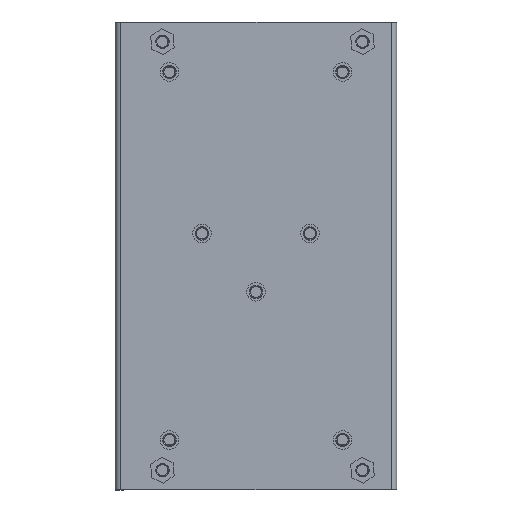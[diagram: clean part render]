
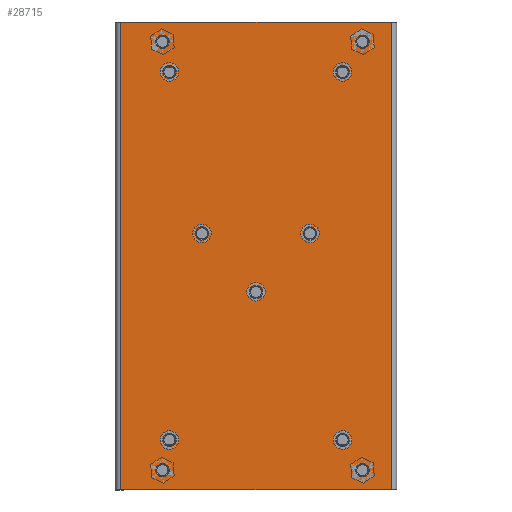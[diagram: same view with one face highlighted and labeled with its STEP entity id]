
A CAD part, front view. The second image highlights one B-rep face of the part: STEP entity #28715.
In plain terms, the highlighted planar face has unit normal (0, -1, 0).
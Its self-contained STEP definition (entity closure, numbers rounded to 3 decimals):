
#1950=FACE_BOUND($,#4904,.T.);
#1951=FACE_BOUND($,#4905,.T.);
#1952=FACE_BOUND($,#4906,.T.);
#1953=FACE_BOUND($,#4907,.T.);
#1954=FACE_BOUND($,#4908,.T.);
#1955=FACE_BOUND($,#4909,.T.);
#1956=FACE_BOUND($,#4910,.T.);
#1957=FACE_BOUND($,#4911,.T.);
#1958=FACE_BOUND($,#4912,.T.);
#1959=FACE_BOUND($,#4913,.T.);
#1960=FACE_BOUND($,#4914,.T.);
#2220=PLANE($,#30303);
#3380=FACE_OUTER_BOUND($,#4903,.T.);
#4903=EDGE_LOOP($,(#20419,#20420,#20421,#20422));
#4904=EDGE_LOOP($,(#20423));
#4905=EDGE_LOOP($,(#20424));
#4906=EDGE_LOOP($,(#20425));
#4907=EDGE_LOOP($,(#20426));
#4908=EDGE_LOOP($,(#20427));
#4909=EDGE_LOOP($,(#20428));
#4910=EDGE_LOOP($,(#20429));
#4911=EDGE_LOOP($,(#20430));
#4912=EDGE_LOOP($,(#20431));
#4913=EDGE_LOOP($,(#20432));
#4914=EDGE_LOOP($,(#20433));
#6688=LINE($,#39159,#9944);
#6696=LINE($,#39177,#9952);
#6699=LINE($,#39196,#9955);
#6700=LINE($,#39197,#9956);
#9944=VECTOR($,#32167,104.);
#9952=VECTOR($,#32179,60.1);
#9955=VECTOR($,#32198,104.);
#9956=VECTOR($,#32199,60.1);
#13208=CIRCLE($,#30304,1.5);
#13209=CIRCLE($,#30305,1.5);
#13210=CIRCLE($,#30306,1.5);
#13211=CIRCLE($,#30307,1.5);
#13212=CIRCLE($,#30308,1.5);
#13213=CIRCLE($,#30309,1.5);
#13214=CIRCLE($,#30310,1.5);
#13215=CIRCLE($,#30311,1.5);
#13216=CIRCLE($,#30312,1.5);
#13217=CIRCLE($,#30313,1.5);
#13218=CIRCLE($,#30314,1.5);
#13608=VERTEX_POINT($,#39152);
#13611=VERTEX_POINT($,#39157);
#13619=VERTEX_POINT($,#39175);
#13627=VERTEX_POINT($,#39195);
#13628=VERTEX_POINT($,#39198);
#13629=VERTEX_POINT($,#39200);
#13630=VERTEX_POINT($,#39202);
#13631=VERTEX_POINT($,#39204);
#13632=VERTEX_POINT($,#39206);
#13633=VERTEX_POINT($,#39208);
#13634=VERTEX_POINT($,#39210);
#13635=VERTEX_POINT($,#39212);
#13636=VERTEX_POINT($,#39214);
#13637=VERTEX_POINT($,#39216);
#13638=VERTEX_POINT($,#39218);
#16328=EDGE_CURVE($,#13611,#13608,#6688,.T.);
#16337=EDGE_CURVE($,#13619,#13611,#6696,.T.);
#16346=EDGE_CURVE($,#13627,#13619,#6699,.T.);
#16347=EDGE_CURVE($,#13627,#13608,#6700,.T.);
#16348=EDGE_CURVE($,#13628,#13628,#13208,.T.);
#16349=EDGE_CURVE($,#13629,#13629,#13209,.T.);
#16350=EDGE_CURVE($,#13630,#13630,#13210,.T.);
#16351=EDGE_CURVE($,#13631,#13631,#13211,.T.);
#16352=EDGE_CURVE($,#13632,#13632,#13212,.T.);
#16353=EDGE_CURVE($,#13633,#13633,#13213,.T.);
#16354=EDGE_CURVE($,#13634,#13634,#13214,.T.);
#16355=EDGE_CURVE($,#13635,#13635,#13215,.T.);
#16356=EDGE_CURVE($,#13636,#13636,#13216,.T.);
#16357=EDGE_CURVE($,#13637,#13637,#13217,.T.);
#16358=EDGE_CURVE($,#13638,#13638,#13218,.T.);
#20419=ORIENTED_EDGE($,*,*,#16328,.F.);
#20420=ORIENTED_EDGE($,*,*,#16337,.F.);
#20421=ORIENTED_EDGE($,*,*,#16346,.F.);
#20422=ORIENTED_EDGE($,*,*,#16347,.T.);
#20423=ORIENTED_EDGE($,*,*,#16348,.T.);
#20424=ORIENTED_EDGE($,*,*,#16349,.T.);
#20425=ORIENTED_EDGE($,*,*,#16350,.T.);
#20426=ORIENTED_EDGE($,*,*,#16351,.T.);
#20427=ORIENTED_EDGE($,*,*,#16352,.T.);
#20428=ORIENTED_EDGE($,*,*,#16353,.T.);
#20429=ORIENTED_EDGE($,*,*,#16354,.T.);
#20430=ORIENTED_EDGE($,*,*,#16355,.T.);
#20431=ORIENTED_EDGE($,*,*,#16356,.T.);
#20432=ORIENTED_EDGE($,*,*,#16357,.T.);
#20433=ORIENTED_EDGE($,*,*,#16358,.T.);
#28715=ADVANCED_FACE($,(#3380,#1950,#1951,#1952,#1953,#1954,#1955,#1956,
#1957,#1958,#1959,#1960),#2220,.T.);
#30303=AXIS2_PLACEMENT_3D($,#39194,#32196,#32197);
#30304=AXIS2_PLACEMENT_3D($,#39199,#32200,#32201);
#30305=AXIS2_PLACEMENT_3D($,#39201,#32202,#32203);
#30306=AXIS2_PLACEMENT_3D($,#39203,#32204,#32205);
#30307=AXIS2_PLACEMENT_3D($,#39205,#32206,#32207);
#30308=AXIS2_PLACEMENT_3D($,#39207,#32208,#32209);
#30309=AXIS2_PLACEMENT_3D($,#39209,#32210,#32211);
#30310=AXIS2_PLACEMENT_3D($,#39211,#32212,#32213);
#30311=AXIS2_PLACEMENT_3D($,#39213,#32214,#32215);
#30312=AXIS2_PLACEMENT_3D($,#39215,#32216,#32217);
#30313=AXIS2_PLACEMENT_3D($,#39217,#32218,#32219);
#30314=AXIS2_PLACEMENT_3D($,#39219,#32220,#32221);
#32167=DIRECTION($,(0.,0.,-1.));
#32179=DIRECTION($,(1.,0.,0.));
#32196=DIRECTION('center_axis',(0.,-1.,0.));
#32197=DIRECTION('ref_axis',(1.,0.,0.));
#32198=DIRECTION($,(0.,0.,1.));
#32199=DIRECTION($,(1.,0.,0.));
#32200=DIRECTION('center_axis',(0.,1.,0.));
#32201=DIRECTION('ref_axis',(0.,0.,-1.));
#32202=DIRECTION('center_axis',(0.,1.,0.));
#32203=DIRECTION('ref_axis',(0.,0.,-1.));
#32204=DIRECTION('center_axis',(0.,1.,0.));
#32205=DIRECTION('ref_axis',(0.,0.,-1.));
#32206=DIRECTION('center_axis',(0.,1.,0.));
#32207=DIRECTION('ref_axis',(0.,0.,-1.));
#32208=DIRECTION('center_axis',(0.,1.,0.));
#32209=DIRECTION('ref_axis',(0.,0.,1.));
#32210=DIRECTION('center_axis',(0.,1.,0.));
#32211=DIRECTION('ref_axis',(0.,0.,1.));
#32212=DIRECTION('center_axis',(0.,1.,0.));
#32213=DIRECTION('ref_axis',(0.,0.,1.));
#32214=DIRECTION('center_axis',(0.,1.,0.));
#32215=DIRECTION('ref_axis',(0.,0.,1.));
#32216=DIRECTION('center_axis',(0.,1.,0.));
#32217=DIRECTION('ref_axis',(0.,0.,1.));
#32218=DIRECTION('center_axis',(0.,1.,0.));
#32219=DIRECTION('ref_axis',(0.,0.,1.));
#32220=DIRECTION('center_axis',(0.,1.,0.));
#32221=DIRECTION('ref_axis',(0.,0.,1.));
#39152=CARTESIAN_POINT('',(30.05,0.,-52.));
#39157=CARTESIAN_POINT('',(30.05,0.,52.));
#39159=CARTESIAN_POINT($,(30.05,0.,-52.));
#39175=CARTESIAN_POINT('',(-30.05,0.,52.));
#39177=CARTESIAN_POINT($,(-29.8,0.,52.));
#39194=CARTESIAN_POINT('Origin',(-31.,0.,-52.));
#39195=CARTESIAN_POINT('',(-30.05,0.,-52.));
#39196=CARTESIAN_POINT($,(-30.05,0.,-52.));
#39197=CARTESIAN_POINT($,(-29.8,0.,-52.));
#39198=CARTESIAN_POINT('',(19.25,0.,-39.4));
#39199=CARTESIAN_POINT('Origin',(19.25,0.,-40.9));
#39200=CARTESIAN_POINT('',(19.25,0.,42.4));
#39201=CARTESIAN_POINT('Origin',(19.25,0.,40.9));
#39202=CARTESIAN_POINT('',(-19.25,0.,-39.4));
#39203=CARTESIAN_POINT('Origin',(-19.25,0.,-40.9));
#39204=CARTESIAN_POINT('',(-19.25,0.,42.4));
#39205=CARTESIAN_POINT('Origin',(-19.25,0.,40.9));
#39206=CARTESIAN_POINT('',(0.,0.,-9.476));
#39207=CARTESIAN_POINT('Origin',(0.,0.,-7.976));
#39208=CARTESIAN_POINT('',(-12.,0.,3.524));
#39209=CARTESIAN_POINT('Origin',(-12.,0.,5.024));
#39210=CARTESIAN_POINT('',(12.,0.,3.524));
#39211=CARTESIAN_POINT('Origin',(12.,0.,5.024));
#39212=CARTESIAN_POINT('',(-20.8,0.,46.1));
#39213=CARTESIAN_POINT('Origin',(-20.8,0.,47.6));
#39214=CARTESIAN_POINT('',(-20.8,0.,-49.1));
#39215=CARTESIAN_POINT('Origin',(-20.8,0.,-47.6));
#39216=CARTESIAN_POINT('',(23.65,0.,46.1));
#39217=CARTESIAN_POINT('Origin',(23.65,0.,47.6));
#39218=CARTESIAN_POINT('',(23.65,0.,-49.1));
#39219=CARTESIAN_POINT('Origin',(23.65,0.,-47.6));
